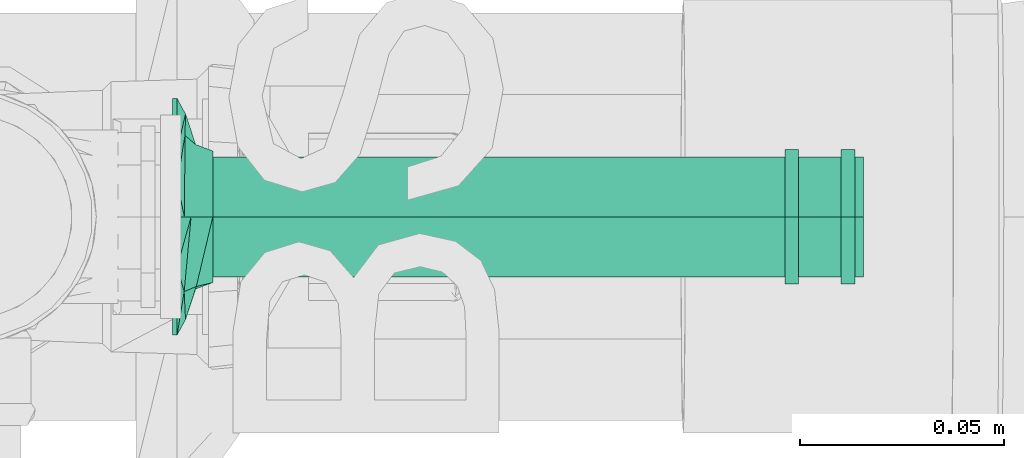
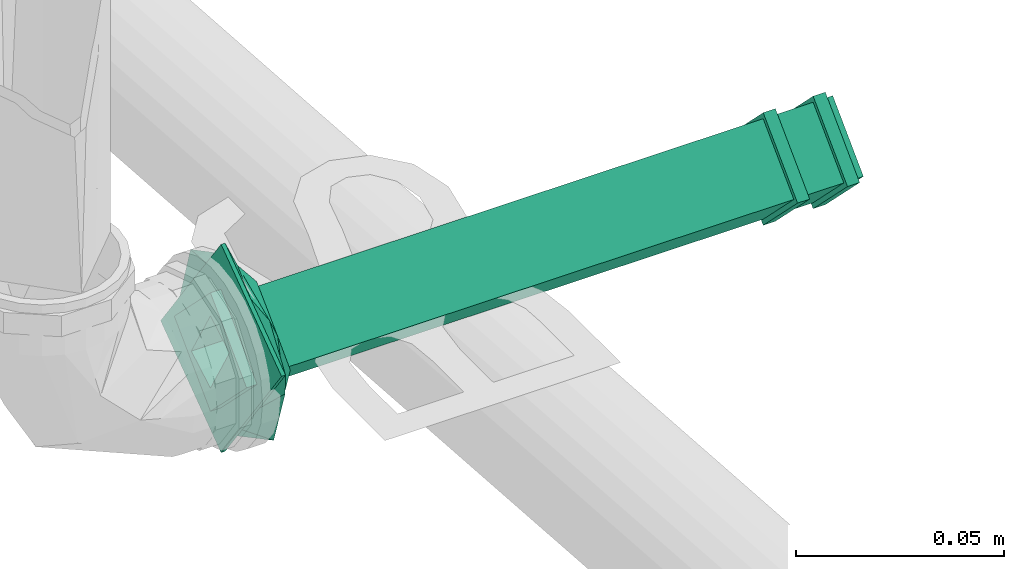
# One storey, part 78 of 589: 1 flow fitting.
"""IFC2X3 building model written with IfcOpenShell, lengths in millimetres."""

from ifc_helpers import new_model, entity, si_unit, converted_unit, derived_unit, direction, frame, origin, place, context, subcontext, project, spatial, faceted_brep, source, transform, mapped, material, type_object, type_shapes, element, save


model = new_model("IFC2X3")

# Units and contexts
model_context = context("Model", 3, precision=0.01, world=origin(), true_north=direction((6.123031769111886e-17, 1.0)))
body_context = subcontext(model_context, "Body", "Model", "MODEL_VIEW")
ifc_project = project(units=[si_unit("LENGTHUNIT", "METRE", prefix="MILLI"), si_unit("AREAUNIT", "SQUARE_METRE"), si_unit("VOLUMEUNIT", "CUBIC_METRE"), converted_unit("PLANEANGLEUNIT", "DEGREE", entity("IfcRatioMeasure", 0.017453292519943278), si_unit("PLANEANGLEUNIT", "RADIAN"), dimensions=[0, 0, 0, 0, 0, 0, 0]), si_unit("MASSUNIT", "GRAM", prefix="KILO"), derived_unit("MASSDENSITYUNIT", [(si_unit("MASSUNIT", "GRAM", prefix="KILO"), 1), (si_unit("LENGTHUNIT", "METRE"), -3)]), derived_unit("IONCONCENTRATIONUNIT", [(si_unit("MASSUNIT", "GRAM", prefix="KILO"), 1), (si_unit("LENGTHUNIT", "METRE"), -3)]), derived_unit("MOMENTOFINERTIAUNIT", [(si_unit("LENGTHUNIT", "METRE"), 4)]), si_unit("TIMEUNIT", "SECOND"), si_unit("FREQUENCYUNIT", "HERTZ"), si_unit("THERMODYNAMICTEMPERATUREUNIT", "DEGREE_CELSIUS"), derived_unit("THERMALTRANSMITTANCEUNIT", [(si_unit("MASSUNIT", "GRAM", prefix="KILO"), 1), (si_unit("THERMODYNAMICTEMPERATUREUNIT", "KELVIN"), -1), (si_unit("TIMEUNIT", "SECOND"), -3)]), derived_unit("THERMALCONDUCTANCEUNIT", [(si_unit("MASSUNIT", "GRAM", prefix="KILO"), 1), (si_unit("THERMODYNAMICTEMPERATUREUNIT", "KELVIN"), -1), (si_unit("TIMEUNIT", "SECOND"), -3), (si_unit("LENGTHUNIT", "METRE"), 1)]), derived_unit("VOLUMETRICFLOWRATEUNIT", [(si_unit("LENGTHUNIT", "METRE"), 3), (si_unit("TIMEUNIT", "SECOND"), -1)]), derived_unit("MASSFLOWRATEUNIT", [(si_unit("MASSUNIT", "GRAM", prefix="KILO"), 1), (si_unit("TIMEUNIT", "SECOND"), -1)]), derived_unit("ROTATIONALFREQUENCYUNIT", [(si_unit("TIMEUNIT", "SECOND"), -1)]), si_unit("ELECTRICCURRENTUNIT", "AMPERE"), si_unit("ELECTRICVOLTAGEUNIT", "VOLT"), si_unit("POWERUNIT", "WATT"), si_unit("FORCEUNIT", "NEWTON", prefix="KILO"), si_unit("ILLUMINANCEUNIT", "LUX"), si_unit("LUMINOUSFLUXUNIT", "LUMEN"), si_unit("LUMINOUSINTENSITYUNIT", "CANDELA"), derived_unit("USERDEFINED", [(si_unit("MASSUNIT", "GRAM", prefix="KILO"), -1), (si_unit("LENGTHUNIT", "METRE"), -2), (si_unit("TIMEUNIT", "SECOND"), 3), (si_unit("LUMINOUSFLUXUNIT", "LUMEN"), 1)]), derived_unit("USERDEFINED", [(si_unit("MASSUNIT", "GRAM", prefix="KILO"), 1), (si_unit("TIMEUNIT", "SECOND"), -3), (si_unit("LENGTHUNIT", "METRE"), 3), (si_unit("ELECTRICCURRENTUNIT", "AMPERE"), -2)]), derived_unit("SOUNDPOWERUNIT", [(si_unit("MASSUNIT", "GRAM", prefix="KILO"), 1), (si_unit("TIMEUNIT", "SECOND"), -3), (si_unit("LENGTHUNIT", "METRE"), 2)]), derived_unit("SOUNDPRESSUREUNIT", [(si_unit("MASSUNIT", "GRAM", prefix="KILO"), 1), (si_unit("LENGTHUNIT", "METRE"), -1), (si_unit("TIMEUNIT", "SECOND"), -2)]), derived_unit("LINEARVELOCITYUNIT", [(si_unit("LENGTHUNIT", "METRE"), 1), (si_unit("TIMEUNIT", "SECOND"), -1)]), si_unit("PRESSUREUNIT", "PASCAL"), derived_unit("USERDEFINED", [(si_unit("MASSUNIT", "GRAM", prefix="KILO"), 1), (si_unit("LENGTHUNIT", "METRE"), -2), (si_unit("TIMEUNIT", "SECOND"), -2)]), derived_unit("LINEARFORCEUNIT", [(si_unit("MASSUNIT", "GRAM", prefix="KILO"), 1), (si_unit("TIMEUNIT", "SECOND"), -2)]), derived_unit("PLANARFORCEUNIT", [(si_unit("MASSUNIT", "GRAM", prefix="KILO"), 1), (si_unit("LENGTHUNIT", "METRE"), -1), (si_unit("TIMEUNIT", "SECOND"), -2)]), derived_unit("SPECIFICHEATCAPACITYUNIT", [(si_unit("THERMODYNAMICTEMPERATUREUNIT", "KELVIN"), -1), (si_unit("LENGTHUNIT", "METRE"), 2), (si_unit("TIMEUNIT", "SECOND"), -2)]), derived_unit("HEATINGVALUEUNIT", [(si_unit("LENGTHUNIT", "METRE"), 2), (si_unit("TIMEUNIT", "SECOND"), -2)]), derived_unit("VAPORPERMEABILITYUNIT", [(si_unit("LENGTHUNIT", "METRE"), -1), (si_unit("TIMEUNIT", "SECOND"), 1)]), derived_unit("DYNAMICVISCOSITYUNIT", [(si_unit("MASSUNIT", "GRAM", prefix="KILO"), 1), (si_unit("TIMEUNIT", "SECOND"), -1), (si_unit("LENGTHUNIT", "METRE"), -1)]), derived_unit("THERMALEXPANSIONCOEFFICIENTUNIT", [(si_unit("THERMODYNAMICTEMPERATUREUNIT", "KELVIN"), -1)]), derived_unit("MODULUSOFELASTICITYUNIT", [(si_unit("MASSUNIT", "GRAM", prefix="KILO"), 1), (si_unit("LENGTHUNIT", "METRE"), -1), (si_unit("TIMEUNIT", "SECOND"), -2)]), derived_unit("ISOTHERMALMOISTURECAPACITYUNIT", [(si_unit("LENGTHUNIT", "METRE"), 3), (si_unit("MASSUNIT", "GRAM", prefix="KILO"), -1)]), derived_unit("MOISTUREDIFFUSIVITYUNIT", [(si_unit("TIMEUNIT", "SECOND"), -1), (si_unit("LENGTHUNIT", "METRE"), 2)])], contexts=[model_context])

# Site, building, storey
site_placement = place(None, origin())
site = spatial("IfcSite", under=ifc_project, at=site_placement, Name="Default", CompositionType="ELEMENT")
building_placement = place(site_placement, origin())
building = spatial("IfcBuilding", under=site, at=building_placement, CompositionType="ELEMENT")
storey_placement = place(building_placement, frame((0.0, 0.0, 100.0)))
storey = spatial("IfcBuildingStorey", under=building, at=storey_placement, Name="TÉRREO", CompositionType="ELEMENT", Elevation=100.0)

# Flow fitting
ifc_material = material(Name="Cromada")
pipe_fitting_type = type_object("IfcPipeFittingType", Name="Tubo de Ligação Inox com anel para vaso sanitário 25cm:Tubo de Ligação Inox com anel para vaso sanitário 25cm", PredefinedType="NOTDEFINED", material=ifc_material)
shared_shape = source(origin(), body_context, "Body", "Brep", [
    faceted_brep([(169.50429906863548, 32.118882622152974, 13.280359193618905), (169.50429906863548, 40.79117842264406, 21.95265499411), (169.50429906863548, 49.46347422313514, 30.624950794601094), (172.4480370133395, 49.46347422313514, 30.624950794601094), (172.4480370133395, 37.891441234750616, 19.052917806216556), (172.4480370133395, 32.118882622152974, 13.280359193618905), (169.50429906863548, 23.446586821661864, 21.95265499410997), (172.4480370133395, 23.446586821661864, 21.95265499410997), (172.4480370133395, 14.774291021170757, 30.624950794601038), (169.50429906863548, 14.774291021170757, 30.624950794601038), (169.50429906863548, 32.11888262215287, 47.96954239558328), (169.50429906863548, 23.44658682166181, 39.297246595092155), (172.4480370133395, 26.346323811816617, 42.196983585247), (172.4480370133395, 32.11888262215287, 47.96954239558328), (169.50429906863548, 40.791178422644, 39.29724659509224), (172.4480370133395, 40.791178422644, 39.29724659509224), (169.50429906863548, 1.5952722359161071, 30.62495079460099), (169.50429906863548, 5.781758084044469, 27.583290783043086), (169.50429906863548, 4.910115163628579, 35.18744066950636), (169.50429906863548, 11.584253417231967, 23.367531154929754), (169.50429906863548, 16.578744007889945, 19.738821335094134), (169.50429906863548, 21.57323459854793, 16.11011151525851), (169.50429906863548, 26.567725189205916, 12.481401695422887), (169.50429906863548, 31.56221577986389, 8.852691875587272), (169.50429906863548, 36.55670637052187, 5.223982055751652), (169.50429906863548, 41.55119696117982, 1.5952722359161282), (169.50429906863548, 44.18760896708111, 5.2239820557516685), (169.50429906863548, 46.82402097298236, 8.852691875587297), (169.50429906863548, 49.46043297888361, 12.481401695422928), (169.50429906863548, 52.09684498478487, 16.110111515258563), (169.50429906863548, 56.012807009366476, 21.499970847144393), (169.50429906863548, 59.32765000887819, 26.062460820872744), (169.50429906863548, 62.642493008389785, 30.624950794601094), (169.50429906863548, 58.45600728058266, 33.666610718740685), (169.50429906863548, 52.65351182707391, 37.882370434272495), (169.50429906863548, 47.65902123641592, 41.511080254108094), (169.50429906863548, 42.66453064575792, 45.139790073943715), (169.50429906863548, 37.67004005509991, 48.76849989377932), (169.50429906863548, 32.67554946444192, 52.39720971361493), (169.50429906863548, 27.681058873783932, 56.025919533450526), (169.50429906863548, 22.686568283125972, 59.654629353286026), (169.50429906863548, 20.0501562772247, 56.025919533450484), (169.50429906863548, 17.41374427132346, 52.39720971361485), (169.50429906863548, 14.777332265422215, 48.76849989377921), (169.50429906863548, 12.140920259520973, 45.139790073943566), (169.50429906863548, 8.224958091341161, 39.749930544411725), (19.27578185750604, 46.84025664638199, 30.624950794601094), (159.6299658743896, 46.84025664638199, 30.624950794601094), (159.6299658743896, 41.249188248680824, 25.03388239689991), (159.6299658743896, 32.118882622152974, 15.903576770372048), (19.27578185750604, 32.118882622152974, 15.903576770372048), (19.27578185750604, 39.479569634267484, 23.26426378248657), (2.0682862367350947, 46.8402566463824, 30.624950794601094), (2.0682862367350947, 39.47956963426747, 23.26426378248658), (2.0682862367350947, 32.11888262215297, 15.903576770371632), (0.0, 32.11888262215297, 15.903576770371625), (0.0, 39.47956963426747, 23.26426378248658), (0.0, 46.840256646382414, 30.624950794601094), (15.901727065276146, 46.84025664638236, 30.624950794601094), (15.901727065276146, 39.47956963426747, 23.26426378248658), (15.901727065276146, 32.11888262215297, 15.903576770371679), (5.4423410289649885, 32.11888262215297, 15.903576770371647), (5.4423410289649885, 39.47956963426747, 23.26426378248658), (5.4423410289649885, 46.840256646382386, 30.624950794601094), (19.27578185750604, 24.758195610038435, 23.264263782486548), (159.6299658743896, 24.758195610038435, 23.264263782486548), (159.6299658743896, 17.3975085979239, 30.624950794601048), (19.27578185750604, 17.3975085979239, 30.624950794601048), (2.0682862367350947, 22.728055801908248, 25.29440359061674), (2.0682862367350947, 17.39750859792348, 30.624950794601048), (0.0, 17.39750859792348, 30.624950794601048), (0.0, 24.75819561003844, 23.26426378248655), (15.901727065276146, 22.728055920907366, 25.294403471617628), (15.901727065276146, 17.397508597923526, 30.624950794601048), (5.4423410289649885, 17.3975085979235, 30.624950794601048), (5.4423410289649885, 24.75819561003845, 23.26426378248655), (19.275781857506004, 24.758195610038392, 37.985637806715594), (159.6299658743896, 22.98857663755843, 36.21601883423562), (159.6299658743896, 32.118882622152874, 45.34632481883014), (19.27578185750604, 32.118882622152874, 45.34632481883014), (2.0682862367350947, 24.758195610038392, 37.98563780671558), (2.0682862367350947, 32.118882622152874, 45.34632481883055), (0.0, 32.118882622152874, 45.34632481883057), (0.0, 24.7581956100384, 37.98563780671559), (15.901727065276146, 24.7581956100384, 37.98563780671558), (15.901727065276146, 32.118882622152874, 45.3463248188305), (5.4423410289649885, 32.118882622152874, 45.34632481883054), (5.4423410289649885, 24.758195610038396, 37.98563780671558), (19.27578185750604, 39.47956963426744, 37.98563780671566), (159.6299658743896, 39.47956963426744, 37.98563780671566), (2.0682862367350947, 41.50970944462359, 35.95549799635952), (0.0, 39.47956963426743, 37.98563780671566), (15.901727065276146, 41.509709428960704, 35.955498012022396), (5.4423410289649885, 39.47956963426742, 37.98563780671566), (0.0, 21.519458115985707, 30.624950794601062), (0.0, 37.41859487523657, 21.44557990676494), (0.0, 26.819170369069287, 39.80432168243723), (0.0, 42.718307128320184, 30.624950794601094), (172.4480370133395, 37.418594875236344, 21.44557990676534), (172.4480370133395, 42.71830712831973, 30.624950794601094), (172.4480370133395, 21.51945811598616, 30.624950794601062), (172.4480370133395, 26.819170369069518, 39.80432168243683), (5.4423410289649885, 15.622913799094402, 30.624950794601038), (5.4423410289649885, 26.90830271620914, 19.33956187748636), (5.4423410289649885, 32.118882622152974, 14.12898197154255), (5.4423410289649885, 23.870898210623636, 38.872935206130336), (5.4423410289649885, 32.11888262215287, 47.12091961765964), (5.4423410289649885, 40.366867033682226, 22.376966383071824), (5.4423410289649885, 48.614851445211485, 30.624950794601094), (5.4423410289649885, 37.3294625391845, 41.910339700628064), (2.0682862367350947, 32.118882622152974, 14.128981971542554), (2.0682862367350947, 40.366867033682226, 22.376966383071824), (2.0682862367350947, 48.614851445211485, 30.624950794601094), (19.27578185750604, 48.614851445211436, 30.624950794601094), (19.27578185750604, 40.3668670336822, 22.376966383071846), (19.27578185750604, 32.118882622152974, 14.128981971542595), (15.901727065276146, 32.11888262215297, 14.1289819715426), (15.901727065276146, 40.3668670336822, 22.376966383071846), (15.901727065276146, 48.614851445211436, 30.624950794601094), (2.0682862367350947, 15.622913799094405, 30.624950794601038), (2.0682862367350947, 23.87089821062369, 22.376966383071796), (19.27578185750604, 26.908302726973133, 19.339561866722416), (19.27578185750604, 15.622913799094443, 30.62495079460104), (15.901727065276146, 15.622913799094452, 30.624950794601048), (15.901727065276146, 23.87089821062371, 22.37696638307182), (2.0682862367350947, 32.11888262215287, 47.12091961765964), (2.0682862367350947, 23.87089821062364, 38.872935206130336), (19.275781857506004, 23.870898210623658, 38.87293520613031), (19.27578185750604, 32.11888262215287, 47.12091961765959), (15.901727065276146, 32.11888262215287, 47.12091961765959), (15.901727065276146, 23.870898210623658, 38.87293520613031), (2.0682862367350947, 40.36686703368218, 38.872935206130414), (19.27578185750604, 37.329462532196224, 41.91033970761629), (15.901727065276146, 40.366867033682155, 38.87293520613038), (168.38578825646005, 41.55119696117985, 1.595272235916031), (168.38578825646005, 44.18760896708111, 5.22398205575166), (168.38578825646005, 46.82402097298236, 8.852691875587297), (168.38578825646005, 49.46043297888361, 12.481401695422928), (168.38578825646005, 52.09684498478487, 16.110111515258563), (168.38578825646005, 53.711986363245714, 18.333162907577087), (168.38578825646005, 54.73325699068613, 19.738821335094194), (168.38578825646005, 57.36966899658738, 23.367531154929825), (168.38578825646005, 59.32765000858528, 26.062460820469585), (168.38578825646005, 62.64249300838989, 30.624950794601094), (168.38578825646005, 1.5952722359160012, 30.62495079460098), (168.38578825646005, 5.781758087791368, 27.583290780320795), (168.38578825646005, 9.968243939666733, 24.5416307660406), (168.38578825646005, 12.874069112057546, 22.430425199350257), (168.38578825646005, 14.15472979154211, 21.499970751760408), (168.38578825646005, 18.34121564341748, 18.458310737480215), (168.38578825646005, 24.143710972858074, 14.24255111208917), (168.38578825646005, 29.946206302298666, 10.02679148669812), (168.38578825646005, 35.74870163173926, 5.81103186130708), (168.38578825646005, 22.686568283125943, 59.654629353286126), (168.38578825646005, 20.050156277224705, 56.02591953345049), (168.38578825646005, 17.413744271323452, 52.397209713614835), (168.38578825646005, 14.777332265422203, 48.76849989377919), (168.38578825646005, 12.140920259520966, 45.13979007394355), (168.38578825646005, 10.525778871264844, 42.91673866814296), (168.38578825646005, 9.504508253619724, 41.51108025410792), (168.38578825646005, 6.86809624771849, 37.88237043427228), (168.38578825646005, 4.910115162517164, 35.18744066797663), (168.38578825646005, 58.45600728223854, 33.66661071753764), (168.38578825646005, 54.2695215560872, 36.708270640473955), (168.38578825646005, 51.36369660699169, 38.819476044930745), (168.38578825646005, 50.08303582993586, 39.749930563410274), (168.38578825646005, 45.89655010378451, 42.79159048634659), (168.38578825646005, 40.09405464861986, 47.00735020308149), (168.38578825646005, 34.29155919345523, 51.22310991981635), (168.38578825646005, 28.489063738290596, 55.43886963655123), (166.65864206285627, 50.44475613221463, 12.263416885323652), (159.6299658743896, 15.96921284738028, 30.62495079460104), (163.8332882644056, 20.75825967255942, 12.912536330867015), (164.9550277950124, 9.359195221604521, 30.62495079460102), (166.32560403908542, 33.03016188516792, 5.39284694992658), (159.6299658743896, 48.26855239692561, 30.624950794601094), (164.9550277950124, 54.878570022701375, 30.624950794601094), (163.6875401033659, 44.02352865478, 13.52475711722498), (159.6299658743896, 32.118882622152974, 14.475281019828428), (166.58567026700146, 58.56876719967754, 30.62495079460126), (166.45278398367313, 16.238491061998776, 10.662693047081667), (166.58567029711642, 5.668997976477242, 30.62495079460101), (166.65864196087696, 13.793009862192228, 48.98648514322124), (166.32560414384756, 31.20760459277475, 55.857054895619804), (163.83328832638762, 43.47950586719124, 48.33736517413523), (163.68754020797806, 20.214236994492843, 47.725144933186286), (159.6299658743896, 32.11888262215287, 46.77462056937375), (166.45278399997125, 47.99927477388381, 50.5872081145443)], [[[0, 1, 2, 3, 4, 5]], [[6, 0, 5, 7, 8, 9]], [[10, 11, 9, 8, 12, 13]], [[14, 10, 13, 15, 3, 2]], [[16, 0, 6]], [[0, 16, 17]], [[16, 6, 9]], [[9, 18, 16]], [[0, 17, 19]], [[0, 19, 20]], [[0, 20, 21]], [[0, 21, 22]], [[0, 22, 23]], [[0, 23, 24]], [[0, 24, 25]], [[25, 1, 0]], [[25, 2, 1]], [[2, 25, 26]], [[2, 26, 27]], [[2, 27, 28]], [[2, 28, 29]], [[2, 29, 30]], [[2, 30, 31]], [[2, 31, 32]], [[32, 14, 2]], [[32, 10, 14]], [[10, 32, 33]], [[10, 33, 34]], [[10, 34, 35]], [[10, 35, 36]], [[10, 36, 37]], [[10, 37, 38]], [[10, 38, 39]], [[10, 39, 40]], [[9, 40, 41]], [[40, 9, 11]], [[40, 11, 10]], [[9, 41, 42]], [[9, 42, 43]], [[9, 43, 44]], [[9, 44, 45]], [[9, 45, 18]], [[46, 47, 48, 49, 50, 51]], [[52, 53, 54, 55, 56, 57]], [[58, 59, 60, 61, 62, 63]], [[64, 50, 49, 65, 66, 67]], [[54, 68, 69, 70, 71, 55]], [[60, 72, 73, 74, 75, 61]], [[76, 67, 66, 77, 78, 79]], [[69, 80, 81, 82, 83, 70]], [[73, 84, 85, 86, 87, 74]], [[88, 79, 78, 89, 47, 46]], [[81, 90, 52, 57, 91, 82]], [[85, 92, 58, 63, 93, 86]], [[94, 55, 71]], [[55, 94, 95]], [[94, 71, 70]], [[70, 96, 94]], [[95, 56, 55]], [[95, 57, 56]], [[95, 97, 57]], [[82, 97, 96]], [[97, 82, 91]], [[97, 91, 57]], [[96, 70, 83]], [[96, 83, 82]], [[98, 99, 97, 95]], [[94, 100, 98, 95]], [[101, 100, 94, 96]], [[97, 99, 101, 96]], [[100, 8, 7]], [[100, 101, 8]], [[100, 7, 5]], [[98, 100, 5]], [[101, 12, 8]], [[101, 13, 12]], [[101, 99, 13]], [[3, 99, 98]], [[99, 3, 15]], [[99, 15, 13]], [[98, 5, 4]], [[98, 4, 3]], [[74, 102, 103]], [[74, 103, 104]], [[104, 75, 74]], [[74, 105, 102]], [[74, 106, 105]], [[106, 74, 87]], [[106, 87, 86]], [[106, 86, 93]], [[106, 93, 63]], [[63, 104, 107]], [[104, 63, 62]], [[63, 107, 108]], [[63, 108, 109]], [[63, 109, 106]], [[104, 62, 61]], [[104, 61, 75]], [[108, 107, 104, 110, 111, 112]], [[113, 114, 115, 116, 117, 118]], [[110, 104, 103, 102, 119, 120]], [[116, 115, 121, 122, 123, 124]], [[102, 105, 106, 125, 126, 119]], [[122, 127, 128, 129, 130, 123]], [[125, 106, 109, 108, 112, 131]], [[129, 128, 132, 113, 118, 133]], [[69, 110, 120]], [[110, 69, 68]], [[69, 120, 119]], [[69, 119, 126]], [[69, 126, 125]], [[125, 80, 69]], [[110, 68, 54]], [[110, 54, 53]], [[110, 53, 52]], [[52, 125, 131]], [[125, 52, 90]], [[52, 111, 110]], [[52, 112, 111]], [[52, 131, 112]], [[125, 90, 81]], [[125, 81, 80]], [[27, 26, 25, 134, 135, 136, 137, 138, 139, 140, 141, 142, 143, 32, 31, 30, 29, 28]], [[19, 17, 16, 144, 145, 146, 147, 148, 149, 150, 151, 152, 134, 25, 24, 23, 22, 21, 20]], [[42, 41, 40, 153, 154, 155, 156, 157, 158, 159, 160, 161, 144, 16, 18, 45, 44, 43]], [[32, 143, 162, 163, 164, 165, 166, 167, 168, 169, 153, 40, 39, 38, 37, 36, 35, 34, 33]], [[170, 139, 138, 137, 136, 135, 134]], [[171, 172, 173]], [[174, 170, 134]], [[175, 176, 177]], [[177, 178, 175]], [[142, 141, 140, 139, 176, 179, 143]], [[174, 172, 177]], [[178, 177, 172]], [[174, 180, 172]], [[178, 172, 171]], [[174, 134, 152, 151, 150]], [[174, 150, 180]], [[170, 177, 176]], [[181, 180, 147]], [[177, 170, 174]], [[139, 170, 176]], [[181, 173, 180]], [[173, 172, 180]], [[180, 150, 149, 148, 147]], [[181, 147, 146, 145, 144]], [[182, 158, 157, 156, 155, 154, 153]], [[183, 184, 185]], [[183, 182, 153]], [[171, 173, 185]], [[185, 186, 171]], [[175, 184, 176]], [[183, 187, 184]], [[186, 185, 184]], [[179, 187, 164]], [[186, 184, 175]], [[183, 153, 169, 168, 167]], [[183, 167, 187]], [[182, 185, 173]], [[161, 160, 159, 158, 173, 181, 144]], [[185, 182, 183]], [[158, 182, 173]], [[179, 176, 187]], [[176, 184, 187]], [[187, 167, 166, 165, 164]], [[179, 164, 163, 162, 143]], [[178, 171, 66]], [[178, 66, 65]], [[178, 65, 49]], [[178, 49, 48]], [[178, 48, 47]], [[178, 47, 175]], [[186, 66, 171]], [[186, 175, 47]], [[186, 47, 89]], [[186, 77, 66]], [[186, 78, 77]], [[186, 89, 78]], [[67, 122, 121]], [[67, 121, 115]], [[115, 64, 67]], [[67, 127, 122]], [[67, 128, 127]], [[128, 67, 76]], [[128, 76, 79]], [[128, 79, 88]], [[128, 88, 46]], [[46, 115, 114]], [[115, 46, 51]], [[46, 114, 113]], [[46, 113, 132]], [[46, 132, 128]], [[115, 51, 50]], [[115, 50, 64]], [[73, 116, 124]], [[116, 73, 72]], [[73, 124, 123]], [[73, 123, 130]], [[73, 130, 129]], [[129, 84, 73]], [[116, 72, 60]], [[116, 60, 59]], [[116, 59, 58]], [[58, 129, 133]], [[129, 58, 92]], [[58, 117, 116]], [[58, 118, 117]], [[58, 133, 118]], [[129, 92, 85]], [[129, 85, 84]]]),
])
type_shapes(pipe_fitting_type, [shared_shape])
flow_fitting_placement = place(storey_placement, frame((-7343.564315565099, -559.5490885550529, 347.8811173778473), z_axis=(0.0, 1.0, 0.0), x_axis=(-1.0, 0.0, 0.0)))
element("IfcFlowFitting", 1, at=flow_fitting_placement, inside=storey, type_object=pipe_fitting_type, material=ifc_material, Name="Tubo de Ligação Inox com anel para vaso sanitário 25cm:Tubo de Ligação Inox com anel para vaso sanitário 25cm", ObjectType="Tubo de Ligação Inox com anel para vaso sanitário 25cm:Tubo de Ligação Inox com anel para vaso sanitário 25cm", context=body_context, shape_type="MappedRepresentation", body=[
    mapped(shared_shape, transform((0.0, 0.0, 0.0), scale=1.0)),
])

save(model, "model.ifc")
